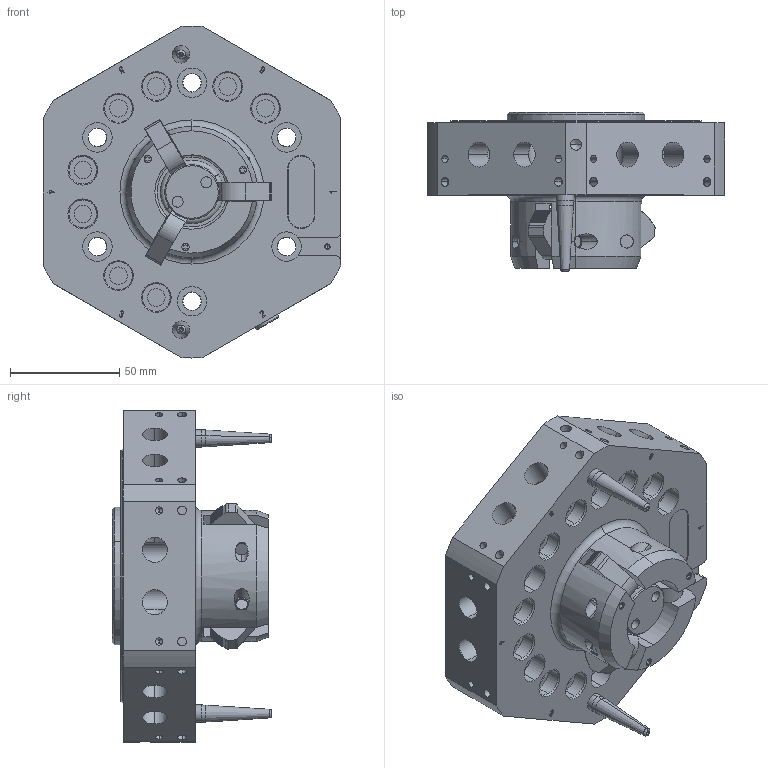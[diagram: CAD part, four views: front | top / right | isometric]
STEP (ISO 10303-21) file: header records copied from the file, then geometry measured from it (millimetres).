
FILE_DESCRIPTION (( 'STEP AP214' ), '1' );
FILE_NAME ('1800889A.STEP', '2019-07-15T18:09:05', ( '' ), ( '' ), 'SwSTEP 2.0', 'SolidWorks 2019', '' );
FILE_SCHEMA (( 'AUTOMOTIVE_DESIGN' ));
Length unit declared in the file: millimetre
Products named in the file (29): 90511-P1030_Default<As Machined>; 87515-P2047; 89503-P1052; 48425; 0601-P58N; 97501-P1084; 48427; 1601-D27A; 1506-C53N; 49628_90967A120; 1506-D51N; 95505-P1087; 48030; 1507-D21A; 96510-B1092; 1506-C58N; 97500-B1028; 1502-C61N; 97501-P1046; 1600-P57N; 48008; 1507-P01N; 1506-C52N; 48012; 48414; 1506-C57N; 91502-P1060; 1800889A; 1506-C54N
Assembly tree (73 placements, depth 3):
  1800889A
    1601-D27A
      1506-D51N
      1506-C52N
      1506-C53N
      1506-C54N
      1502-C61N  x3
      97500-B1028  x3
      96510-B1092  x2
      48427  x5
      48425  x3
      89503-P1052  x9
      48030  x2
      90511-P1030_Default<As Machined>
      97501-P1046
      48012  x8
      0601-P58N
      91502-P1060
      49628_90967A120
    1507-D21A
      1506-C57N
      1506-C58N
      1507-P01N  x2
      48414  x2
      48012  x4
      48008  x2
      87515-P2047  x6
      95505-P1087  x6
      97501-P1084  x2
    1600-P57N
Bounding box: 136 x 73.02 x 152 mm (x, y, z)
Volume: 488580.5 mm3; surface area: 164530.3 mm2
Topology: 71 solids, 71 shells, 2327 faces, 5499 edges, 3458 vertices
Faces by surface type: plane 912, cylinder 760, cone 315, bspline 199, torus 141
Entity records: 64520 total; most frequent: CARTESIAN_POINT 24723, ORIENTED_EDGE 7722, DIRECTION 7642, EDGE_CURVE 3861, AXIS2_PLACEMENT_3D 2840, VERTEX_POINT 2483, VECTOR 1962, LINE 1962
